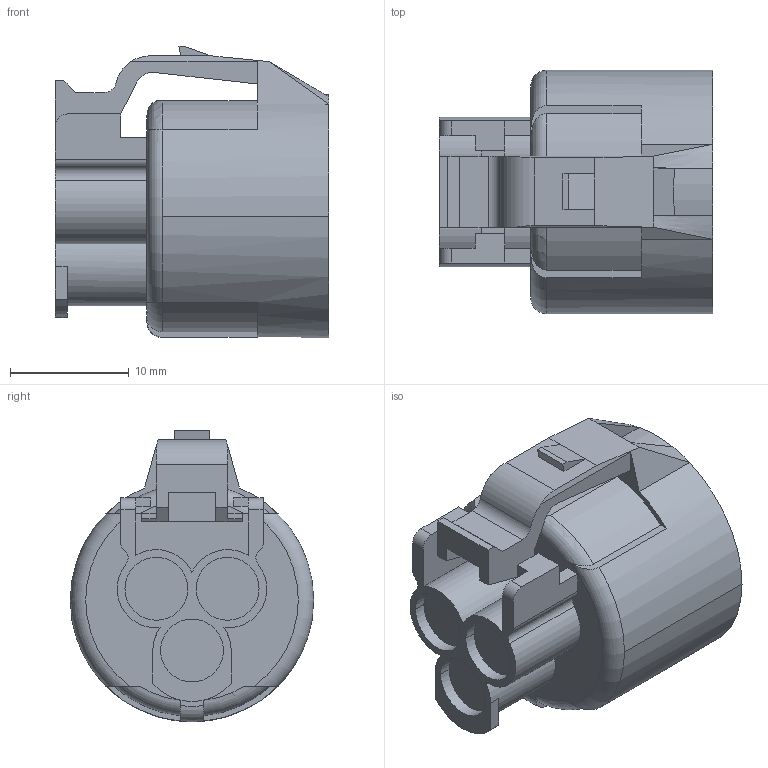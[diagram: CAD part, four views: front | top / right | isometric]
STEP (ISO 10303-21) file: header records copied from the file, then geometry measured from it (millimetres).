
FILE_DESCRIPTION(('CATIA V5 STEP Exchange','CAx-IF Rec.Pracs.--- Model Styling and Organization---1.2---2011-12-15'),'2;1');
FILE_NAME('N:\C-DAM_MyDesk\ENV\900093\6187-3901.stp','2015-02-03T09:16:51+00:00',('none'),('none'),'CATIA Version 5-6 Release 2012 SP4 HF74','CATIA V5 STEP AP214','none');
FILE_SCHEMA(('AUTOMOTIVE_DESIGN { 1 0 10303 214 1 1 1 1 }'));
Length unit declared in the file: millimetre
Products named in the file (1): 6187-3901
Bounding box: 23 x 20.5 x 24.55 mm (x, y, z)
Volume: 3645 mm3; surface area: 4098.8 mm2
Topology: 1 solids, 1 shells, 149 faces, 408 edges, 270 vertices
Faces by surface type: plane 97, cylinder 44, torus 6, bspline 2
Entity records: 4678 total; most frequent: CARTESIAN_POINT 1041, ORIENTED_EDGE 816, DIRECTION 620, EDGE_CURVE 408, VECTOR 285, LINE 285, VERTEX_POINT 270, AXIS2_PLACEMENT_3D 221
